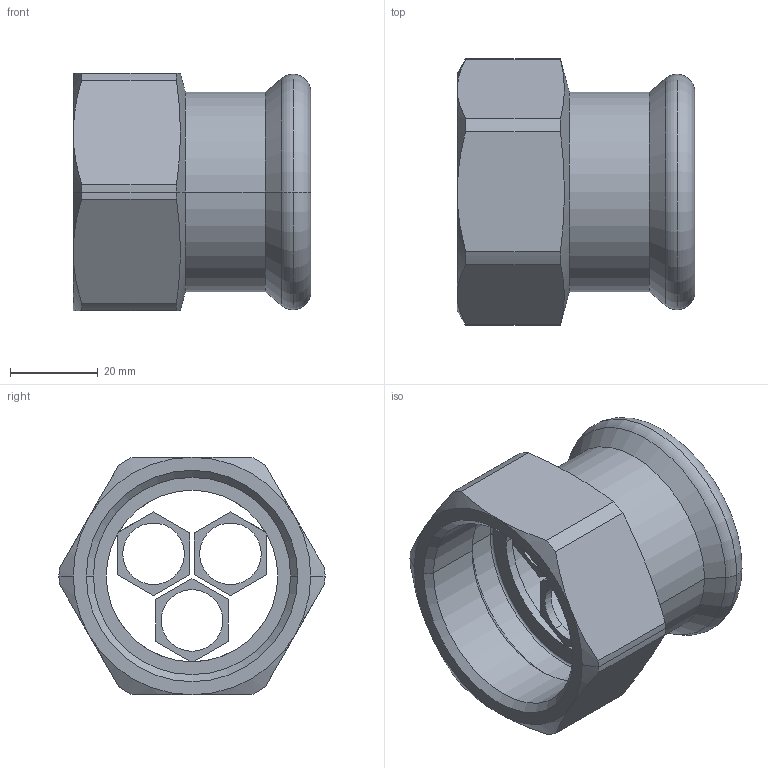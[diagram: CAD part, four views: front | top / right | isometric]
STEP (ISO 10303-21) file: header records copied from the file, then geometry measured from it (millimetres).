
FILE_DESCRIPTION(('OneSpaceDesigner STEP Export'),'2;1');
FILE_NAME('R2702 42xRp1 1-2.stp','2010-06-08T15:36:35',(''),(''),'OneSpace Designer STEP processor for AP214 (Solid Model)','OneSpace Modeling 15.00A 14-Mar-2007 (C) CoCreate Software GmbH','');
FILE_SCHEMA(('AUTOMOTIVE_DESIGN { 1 0 10303 214 1 1 1 1 }'));
Length unit declared in the file: millimetre
Products named in the file (2): R2702_42xRp3-2
Assembly tree (1 placements, depth 2):
  R2702_42xRp3-2
    R2702_42xRp3-2
Bounding box: 54 x 60.5 x 54 mm (x, y, z)
Volume: 32826.6 mm3; surface area: 20504.5 mm2
Topology: 1 solids, 1 shells, 87 faces, 220 edges, 137 vertices
Faces by surface type: plane 34, cylinder 29, cone 18, torus 6
Entity records: 3045 total; most frequent: CARTESIAN_POINT 1201, ORIENTED_EDGE 440, DIRECTION 287, EDGE_CURVE 220, VERTEX_POINT 137, VECTOR 113, LINE 113, EDGE_LOOP 97
